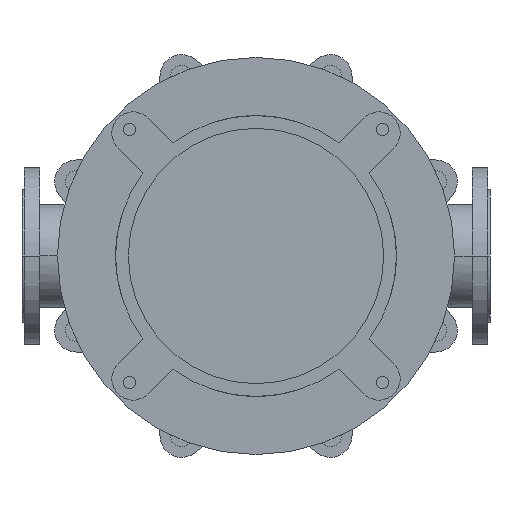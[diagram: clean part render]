
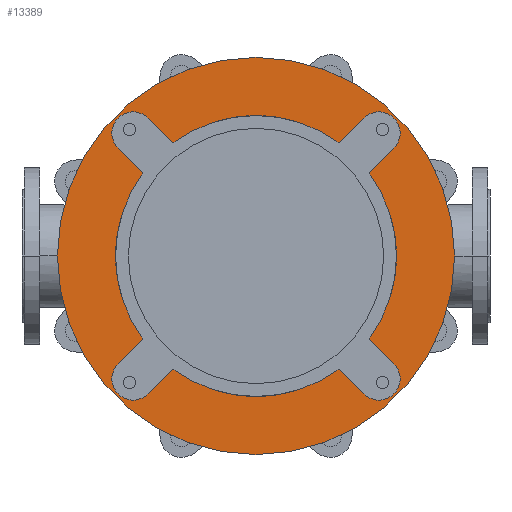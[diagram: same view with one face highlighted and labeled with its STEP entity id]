
A CAD part, front view. The second image highlights one B-rep face of the part: STEP entity #13389.
In plain terms, the highlighted planar face has unit normal (0, -1, 0).
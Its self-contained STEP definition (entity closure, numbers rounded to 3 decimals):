
#3030=CARTESIAN_POINT('',(0.,-25.,0.));
#3031=DIRECTION('',(0.,1.,0.));
#3032=DIRECTION('',(0.592,0.,-0.806));
#3033=AXIS2_PLACEMENT_3D('',#3030,#3031,#3032);
#3048=CARTESIAN_POINT('',(0.,-25.,0.));
#3049=DIRECTION('',(0.,1.,0.));
#3050=DIRECTION('',(0.806,0.,0.592));
#3051=AXIS2_PLACEMENT_3D('',#3048,#3049,#3050);
#3075=CARTESIAN_POINT('',(0.,-25.,0.));
#3076=DIRECTION('',(0.,1.,0.));
#3077=DIRECTION('',(-0.806,0.,-0.592));
#3078=AXIS2_PLACEMENT_3D('',#3075,#3076,#3077);
#3084=CARTESIAN_POINT('',(0.,-25.,0.));
#3085=DIRECTION('',(0.,1.,0.));
#3086=DIRECTION('',(-0.592,0.,0.806));
#3087=AXIS2_PLACEMENT_3D('',#3084,#3085,#3086);
#3262=CARTESIAN_POINT('',(0.,-25.,0.));
#3263=DIRECTION('',(0.,-1.,0.));
#3264=DIRECTION('',(-1.,0.,0.));
#3265=AXIS2_PLACEMENT_3D('',#3262,#3263,#3264);
#3267=CARTESIAN_POINT('',(0.,-25.,0.));
#3268=DIRECTION('',(0.,1.,0.));
#3269=DIRECTION('',(-1.,0.,0.));
#3270=AXIS2_PLACEMENT_3D('',#3267,#3268,#3269);
#3272=CARTESIAN_POINT('',(-173.241,-25.,173.241));
#3273=DIRECTION('',(0.,-1.,0.));
#3274=DIRECTION('',(0.707,0.,0.707));
#3275=AXIS2_PLACEMENT_3D('',#3272,#3273,#3274);
#3277=DIRECTION('',(0.707,0.,-0.707));
#3278=VECTOR('',#3277,49.286);
#3279=CARTESIAN_POINT('',(-194.454,-25.,152.028));
#3280=LINE('',#3279,#3278);
#3281=DIRECTION('',(-0.707,0.,-0.707));
#3282=VECTOR('',#3281,49.286);
#3283=CARTESIAN_POINT('',(-159.604,-25.,-117.178));
#3284=LINE('',#3283,#3282);
#3285=CARTESIAN_POINT('',(-173.241,-25.,-173.241));
#3286=DIRECTION('',(0.,-1.,0.));
#3287=DIRECTION('',(-0.707,0.,0.707));
#3288=AXIS2_PLACEMENT_3D('',#3285,#3286,#3287);
#3290=DIRECTION('',(0.707,0.,0.707));
#3291=VECTOR('',#3290,49.286);
#3292=CARTESIAN_POINT('',(-152.028,-25.,-194.454));
#3293=LINE('',#3292,#3291);
#3294=DIRECTION('',(0.707,0.,-0.707));
#3295=VECTOR('',#3294,49.286);
#3296=CARTESIAN_POINT('',(117.178,-25.,-159.604));
#3297=LINE('',#3296,#3295);
#3298=CARTESIAN_POINT('',(173.241,-25.,-173.241));
#3299=DIRECTION('',(0.,-1.,0.));
#3300=DIRECTION('',(-0.707,0.,-0.707));
#3301=AXIS2_PLACEMENT_3D('',#3298,#3299,#3300);
#3303=DIRECTION('',(-0.707,0.,0.707));
#3304=VECTOR('',#3303,49.286);
#3305=CARTESIAN_POINT('',(194.454,-25.,-152.028));
#3306=LINE('',#3305,#3304);
#3307=DIRECTION('',(0.707,0.,0.707));
#3308=VECTOR('',#3307,49.286);
#3309=CARTESIAN_POINT('',(159.604,-25.,117.178));
#3310=LINE('',#3309,#3308);
#3311=CARTESIAN_POINT('',(173.241,-25.,173.241));
#3312=DIRECTION('',(0.,-1.,0.));
#3313=DIRECTION('',(0.707,0.,-0.707));
#3314=AXIS2_PLACEMENT_3D('',#3311,#3312,#3313);
#3316=DIRECTION('',(-0.707,0.,-0.707));
#3317=VECTOR('',#3316,49.286);
#3318=CARTESIAN_POINT('',(152.028,-25.,194.454));
#3319=LINE('',#3318,#3317);
#3320=DIRECTION('',(-0.707,0.,0.707));
#3321=VECTOR('',#3320,49.286);
#3322=CARTESIAN_POINT('',(-117.178,-25.,159.604));
#3323=LINE('',#3322,#3321);
#8357=CARTESIAN_POINT('',(-280.,-25.,0.));
#8358=CARTESIAN_POINT('',(280.,-25.,0.));
#8359=VERTEX_POINT('',#8357);
#8360=VERTEX_POINT('',#8358);
#8381=CARTESIAN_POINT('',(-194.454,-25.,-152.028));
#8382=CARTESIAN_POINT('',(-152.028,-25.,-194.454));
#8383=VERTEX_POINT('',#8381);
#8384=VERTEX_POINT('',#8382);
#8385=CARTESIAN_POINT('',(-117.178,-25.,-159.604));
#8386=VERTEX_POINT('',#8385);
#8387=CARTESIAN_POINT('',(-159.604,-25.,-117.178));
#8388=VERTEX_POINT('',#8387);
#8397=CARTESIAN_POINT('',(152.028,-25.,-194.454));
#8398=CARTESIAN_POINT('',(194.454,-25.,-152.028));
#8399=VERTEX_POINT('',#8397);
#8400=VERTEX_POINT('',#8398);
#8401=CARTESIAN_POINT('',(159.604,-25.,-117.178));
#8402=VERTEX_POINT('',#8401);
#8403=CARTESIAN_POINT('',(117.178,-25.,-159.604));
#8404=VERTEX_POINT('',#8403);
#8413=CARTESIAN_POINT('',(194.454,-25.,152.028));
#8414=CARTESIAN_POINT('',(152.028,-25.,194.454));
#8415=VERTEX_POINT('',#8413);
#8416=VERTEX_POINT('',#8414);
#8417=CARTESIAN_POINT('',(117.178,-25.,159.604));
#8418=VERTEX_POINT('',#8417);
#8419=CARTESIAN_POINT('',(159.604,-25.,117.178));
#8420=VERTEX_POINT('',#8419);
#8429=CARTESIAN_POINT('',(-152.028,-25.,194.454));
#8430=CARTESIAN_POINT('',(-194.454,-25.,152.028));
#8431=VERTEX_POINT('',#8429);
#8432=VERTEX_POINT('',#8430);
#8433=CARTESIAN_POINT('',(-159.604,-25.,117.178));
#8434=VERTEX_POINT('',#8433);
#8435=CARTESIAN_POINT('',(-117.178,-25.,159.604));
#8436=VERTEX_POINT('',#8435);
#13349=CARTESIAN_POINT('',(0.,-25.,0.));
#13350=DIRECTION('',(0.,-1.,0.));
#13351=DIRECTION('',(-1.,0.,0.));
#13352=AXIS2_PLACEMENT_3D('',#13349,#13350,#13351);
#13353=PLANE('',#13352);
#13355=ORIENTED_EDGE('',*,*,#13354,.F.);
#13357=ORIENTED_EDGE('',*,*,#13356,.T.);
#13358=EDGE_LOOP('',(#13355,#13357));
#13359=FACE_OUTER_BOUND('',#13358,.F.);
#13361=ORIENTED_EDGE('',*,*,#13360,.T.);
#13363=ORIENTED_EDGE('',*,*,#13362,.T.);
#13364=ORIENTED_EDGE('',*,*,#13302,.F.);
#13366=ORIENTED_EDGE('',*,*,#13365,.T.);
#13368=ORIENTED_EDGE('',*,*,#13367,.T.);
#13370=ORIENTED_EDGE('',*,*,#13369,.T.);
#13371=ORIENTED_EDGE('',*,*,#13255,.F.);
#13372=ORIENTED_EDGE('',*,*,#13339,.T.);
#13374=ORIENTED_EDGE('',*,*,#13373,.T.);
#13376=ORIENTED_EDGE('',*,*,#13375,.T.);
#13377=ORIENTED_EDGE('',*,*,#13276,.F.);
#13379=ORIENTED_EDGE('',*,*,#13378,.T.);
#13381=ORIENTED_EDGE('',*,*,#13380,.T.);
#13383=ORIENTED_EDGE('',*,*,#13382,.T.);
#13384=ORIENTED_EDGE('',*,*,#13320,.F.);
#13386=ORIENTED_EDGE('',*,*,#13385,.T.);
#13387=EDGE_LOOP('',(#13361,#13363,#13364,#13366,#13368,#13370,#13371,#13372,
#13374,#13376,#13377,#13379,#13381,#13383,#13384,#13386));
#13388=FACE_BOUND('',#13387,.F.);
#13389=ADVANCED_FACE('',(#13359,#13388),#13353,.T.);
#3034=CIRCLE('',#3033,198.);
#3052=CIRCLE('',#3051,198.);
#3079=CIRCLE('',#3078,198.);
#3088=CIRCLE('',#3087,198.);
#3266=CIRCLE('',#3265,280.);
#3271=CIRCLE('',#3270,280.);
#3276=CIRCLE('',#3275,30.);
#3289=CIRCLE('',#3288,30.);
#3302=CIRCLE('',#3301,30.);
#3315=CIRCLE('',#3314,30.);
#13255=EDGE_CURVE('',#8404,#8386,#3034,.T.);
#13276=EDGE_CURVE('',#8420,#8402,#3052,.T.);
#13302=EDGE_CURVE('',#8388,#8434,#3079,.T.);
#13320=EDGE_CURVE('',#8436,#8418,#3088,.T.);
#13339=EDGE_CURVE('',#8404,#8399,#3297,.T.);
#13354=EDGE_CURVE('',#8359,#8360,#3266,.T.);
#13356=EDGE_CURVE('',#8359,#8360,#3271,.T.);
#13360=EDGE_CURVE('',#8431,#8432,#3276,.T.);
#13362=EDGE_CURVE('',#8432,#8434,#3280,.T.);
#13365=EDGE_CURVE('',#8388,#8383,#3284,.T.);
#13367=EDGE_CURVE('',#8383,#8384,#3289,.T.);
#13369=EDGE_CURVE('',#8384,#8386,#3293,.T.);
#13373=EDGE_CURVE('',#8399,#8400,#3302,.T.);
#13375=EDGE_CURVE('',#8400,#8402,#3306,.T.);
#13378=EDGE_CURVE('',#8420,#8415,#3310,.T.);
#13380=EDGE_CURVE('',#8415,#8416,#3315,.T.);
#13382=EDGE_CURVE('',#8416,#8418,#3319,.T.);
#13385=EDGE_CURVE('',#8436,#8431,#3323,.T.);
